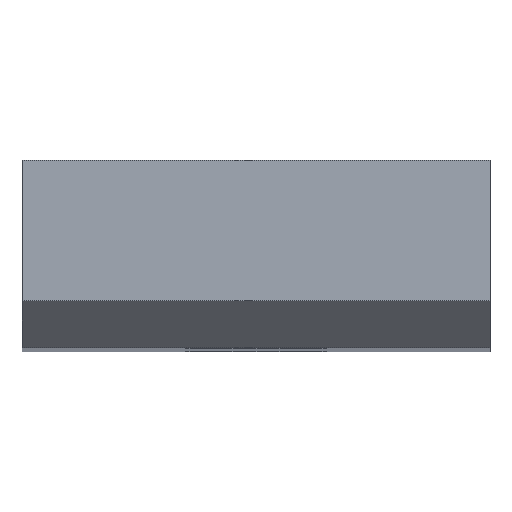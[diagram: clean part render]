
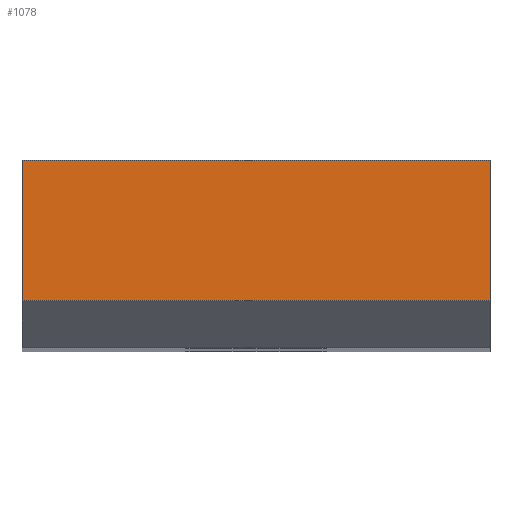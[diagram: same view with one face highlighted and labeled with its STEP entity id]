
A CAD part, top view. The second image highlights one B-rep face of the part: STEP entity #1078.
In plain terms, the highlighted planar face has unit normal (0, 0, 1).
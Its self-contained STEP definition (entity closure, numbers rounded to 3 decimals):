
#320 = VECTOR ( 'NONE', #3117, 1000. ) ;
#916 = CARTESIAN_POINT ( 'NONE',  ( 0., 12., 160. ) ) ;
#923 = CARTESIAN_POINT ( 'NONE',  ( 30., 12., 160. ) ) ;
#1078 = ADVANCED_FACE ( 'NONE', ( #2251 ), #3768, .T. ) ;
#1201 = EDGE_CURVE ( 'NONE', #1623, #3255, #1267, .T. ) ;
#1227 = VECTOR ( 'NONE', #2469, 1000. ) ;
#1267 = LINE ( 'NONE', #3039, #1548 ) ;
#1548 = VECTOR ( 'NONE', #2960, 1000. ) ;
#1623 = VERTEX_POINT ( 'NONE', #916 ) ;
#1803 = VERTEX_POINT ( 'NONE', #3564 ) ;
#2039 = LINE ( 'NONE', #2270, #2829 ) ;
#2075 = AXIS2_PLACEMENT_3D ( 'NONE', #2226, #3234, #3133 ) ;
#2079 = LINE ( 'NONE', #3248, #320 ) ;
#2226 = CARTESIAN_POINT ( 'NONE',  ( 0., 12., 160. ) ) ;
#2251 = FACE_OUTER_BOUND ( 'NONE', #2756, .T. ) ;
#2270 = CARTESIAN_POINT ( 'NONE',  ( 30., 7.5, 160. ) ) ;
#2282 = DIRECTION ( 'NONE',  ( 0., -1., 0. ) ) ;
#2469 = DIRECTION ( 'NONE',  ( 0., -1., 0. ) ) ;
#2494 = EDGE_CURVE ( 'NONE', #1623, #1803, #2869, .T. ) ;
#2658 = CARTESIAN_POINT ( 'NONE',  ( 0., 7.5, 160. ) ) ;
#2756 = EDGE_LOOP ( 'NONE', ( #3029, #3028, #2988, #2985 ) ) ;
#2829 = VECTOR ( 'NONE', #2282, 1000. ) ;
#2869 = LINE ( 'NONE', #2658, #1227 ) ;
#2960 = DIRECTION ( 'NONE',  ( 1., 0., 0. ) ) ;
#2985 = ORIENTED_EDGE ( 'NONE', *, *, #3196, .T. ) ;
#2988 = ORIENTED_EDGE ( 'NONE', *, *, #2494, .T. ) ;
#3028 = ORIENTED_EDGE ( 'NONE', *, *, #1201, .F. ) ;
#3029 = ORIENTED_EDGE ( 'NONE', *, *, #3810, .F. ) ;
#3039 = CARTESIAN_POINT ( 'NONE',  ( 15., 12., 160. ) ) ;
#3117 = DIRECTION ( 'NONE',  ( 1., 0., 0. ) ) ;
#3133 = DIRECTION ( 'NONE',  ( 1., 0., 0. ) ) ;
#3196 = EDGE_CURVE ( 'NONE', #1803, #3222, #2079, .T. ) ;
#3222 = VERTEX_POINT ( 'NONE', #3334 ) ;
#3234 = DIRECTION ( 'NONE',  ( 0., 0., 1. ) ) ;
#3248 = CARTESIAN_POINT ( 'NONE',  ( 15., 3., 160. ) ) ;
#3255 = VERTEX_POINT ( 'NONE', #923 ) ;
#3334 = CARTESIAN_POINT ( 'NONE',  ( 30., 3., 160. ) ) ;
#3564 = CARTESIAN_POINT ( 'NONE',  ( 0., 3., 160. ) ) ;
#3768 = PLANE ( 'NONE',  #2075 ) ;
#3810 = EDGE_CURVE ( 'NONE', #3255, #3222, #2039, .T. ) ;
